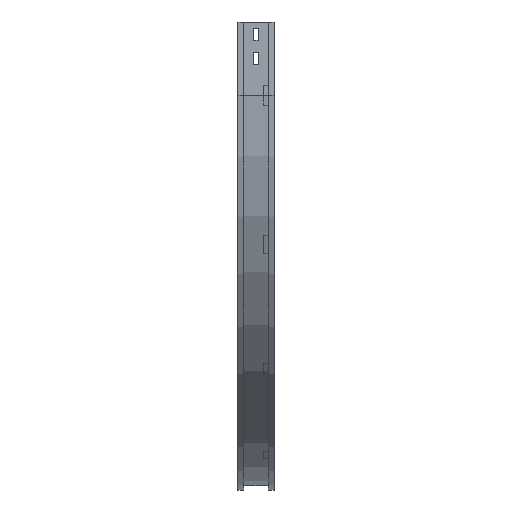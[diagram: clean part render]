
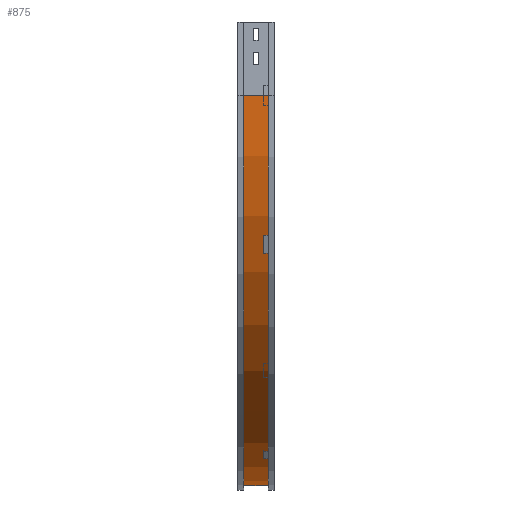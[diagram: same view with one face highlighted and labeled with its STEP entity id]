
A CAD part, left-side view. The second image highlights one B-rep face of the part: STEP entity #875.
In plain terms, the highlighted cylindrical face has radius 800 mm (diameter 1600 mm), a partial arc.
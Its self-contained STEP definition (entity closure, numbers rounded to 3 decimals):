
#18 = DIRECTION ( 'NONE',  ( 0., -1., 0. ) ) ;
#56 = ORIENTED_EDGE ( 'NONE', *, *, #1388, .T. ) ;
#69 = EDGE_CURVE ( 'NONE', #2594, #352, #1279, .T. ) ;
#107 = CARTESIAN_POINT ( 'NONE',  ( 809., 12., -950. ) ) ;
#257 = VECTOR ( 'NONE', #2362, 1000. ) ;
#300 = EDGE_CURVE ( 'NONE', #376, #1141, #929, .T. ) ;
#352 = VERTEX_POINT ( 'NONE', #2889 ) ;
#354 = AXIS2_PLACEMENT_3D ( 'NONE', #2969, #18, #2716 ) ;
#376 = VERTEX_POINT ( 'NONE', #2736 ) ;
#451 = CARTESIAN_POINT ( 'NONE',  ( 9., 12., -150. ) ) ;
#534 = DIRECTION ( 'NONE',  ( 0., -1., 0. ) ) ;
#736 = CARTESIAN_POINT ( 'NONE',  ( 809., 63., -150. ) ) ;
#773 = EDGE_LOOP ( 'NONE', ( #1852, #2660, #2147, #56 ) ) ;
#805 = VECTOR ( 'NONE', #1174, 1000. ) ;
#875 = ADVANCED_FACE ( 'NONE', ( #1360 ), #2412, .T. ) ;
#929 = CIRCLE ( 'NONE', #2865, 800. ) ;
#1120 = EDGE_CURVE ( 'NONE', #376, #2594, #2051, .T. ) ;
#1141 = VERTEX_POINT ( 'NONE', #3177 ) ;
#1174 = DIRECTION ( 'NONE',  ( 0., -1., 0. ) ) ;
#1175 = CARTESIAN_POINT ( 'NONE',  ( 9., 12., -150. ) ) ;
#1279 = CIRCLE ( 'NONE', #2599, 800. ) ;
#1360 = FACE_OUTER_BOUND ( 'NONE', #773, .T. ) ;
#1388 = EDGE_CURVE ( 'NONE', #1141, #352, #2472, .T. ) ;
#1744 = DIRECTION ( 'NONE',  ( 0., -1., 0. ) ) ;
#1852 = ORIENTED_EDGE ( 'NONE', *, *, #69, .F. ) ;
#2051 = LINE ( 'NONE', #451, #257 ) ;
#2147 = ORIENTED_EDGE ( 'NONE', *, *, #300, .T. ) ;
#2362 = DIRECTION ( 'NONE',  ( 0., -1., 0. ) ) ;
#2412 = CYLINDRICAL_SURFACE ( 'NONE', #354, 800. ) ;
#2472 = LINE ( 'NONE', #107, #805 ) ;
#2594 = VERTEX_POINT ( 'NONE', #1175 ) ;
#2599 = AXIS2_PLACEMENT_3D ( 'NONE', #2803, #1744, #3087 ) ;
#2600 = DIRECTION ( 'NONE',  ( -1., 0., 0. ) ) ;
#2660 = ORIENTED_EDGE ( 'NONE', *, *, #1120, .F. ) ;
#2716 = DIRECTION ( 'NONE',  ( 0., 0., -1. ) ) ;
#2736 = CARTESIAN_POINT ( 'NONE',  ( 9., 63., -150. ) ) ;
#2803 = CARTESIAN_POINT ( 'NONE',  ( 809., 12., -150. ) ) ;
#2865 = AXIS2_PLACEMENT_3D ( 'NONE', #736, #534, #2600 ) ;
#2889 = CARTESIAN_POINT ( 'NONE',  ( 809., 12., -950. ) ) ;
#2969 = CARTESIAN_POINT ( 'NONE',  ( 809., 0., -150. ) ) ;
#3087 = DIRECTION ( 'NONE',  ( -1., 0., 0. ) ) ;
#3177 = CARTESIAN_POINT ( 'NONE',  ( 809., 63., -950. ) ) ;
